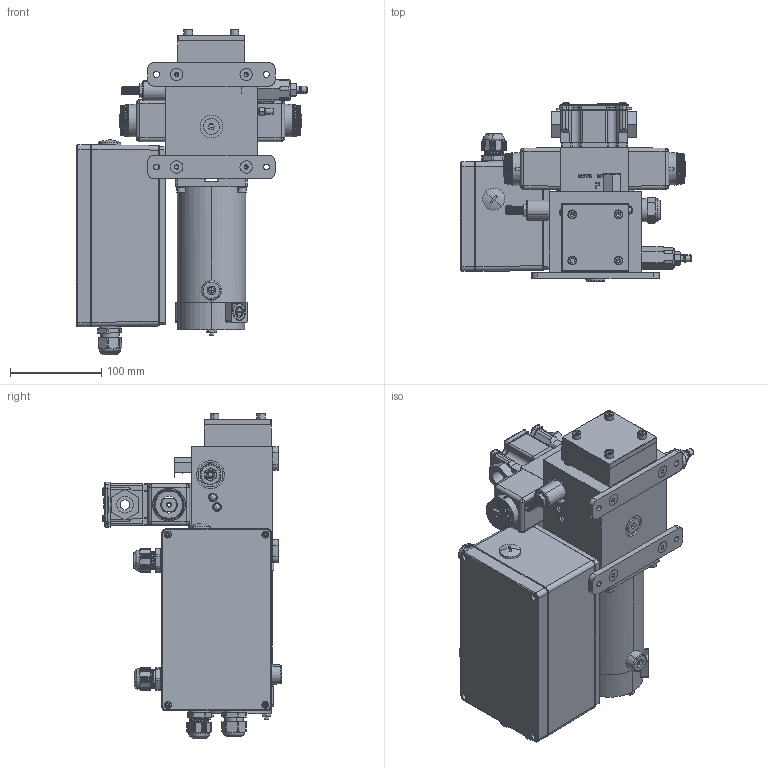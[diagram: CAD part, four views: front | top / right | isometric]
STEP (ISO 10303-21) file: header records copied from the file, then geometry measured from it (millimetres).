
FILE_DESCRIPTION (( 'STEP AP214' ), '1' );
FILE_NAME ('600-032_revA.STEP', '2020-07-27T16:55:17', ( '' ), ( '' ), 'SwSTEP 2.0', 'SolidWorks 2019', '' );
FILE_SCHEMA (( 'AUTOMOTIVE_DESIGN' ));
Length unit declared in the file: inch
Products named in the file (2): 600-032_revA
Bounding box: 252.68 x 196.55 x 357.13 mm (x, y, z)
Surface area: 393127.1 mm2 (no closed solid volume)
Topology: 0 solids, 204 shells, 2468 faces, 14740 edges, 12246 vertices
Faces by surface type: plane 1338, cylinder 670, cone 297, bspline 125, torus 36, sphere 2
Entity records: 197712 total; most frequent: CARTESIAN_POINT 60843, ORIENTED_EDGE 19382, DIRECTION 18766, EDGE_CURVE 14702, VERTEX_POINT 12246, VECTOR 9532, LINE 9532, AXIS2_PLACEMENT_3D 4617
